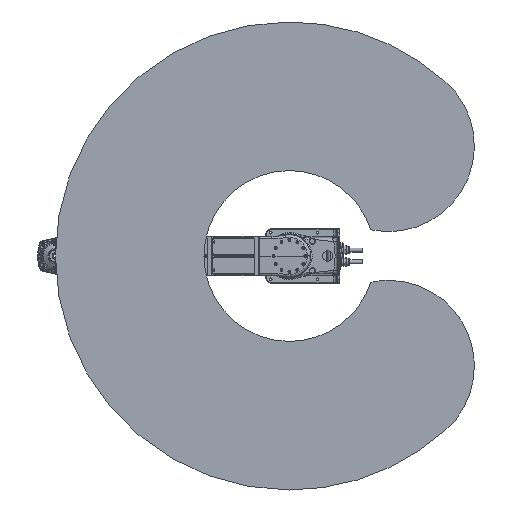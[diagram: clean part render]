
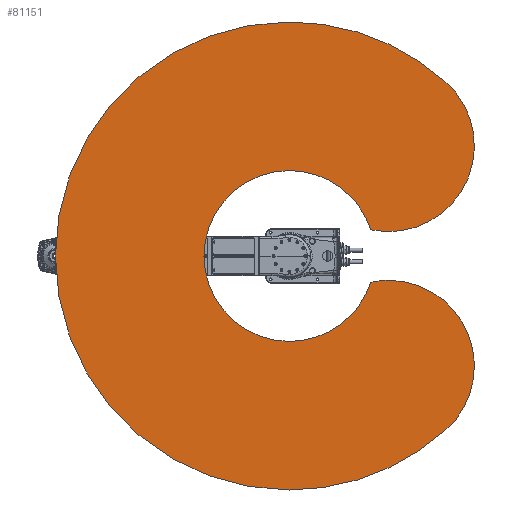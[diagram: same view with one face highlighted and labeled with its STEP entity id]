
A CAD part, front view. The second image highlights one B-rep face of the part: STEP entity #81151.
In plain terms, the highlighted planar face has unit normal (0, -1, 0).
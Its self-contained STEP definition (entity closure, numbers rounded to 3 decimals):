
#6951 = DIRECTION ( 'NONE',  ( 0., 0., 1. ) ) ;
#18715 = CARTESIAN_POINT ( 'NONE',  ( 0., -465., 0. ) ) ;
#19353 = CIRCLE ( 'NONE', #34128, 273.863 ) ;
#24739 = AXIS2_PLACEMENT_3D ( 'NONE', #201879, #52452, #227000 ) ;
#34128 = AXIS2_PLACEMENT_3D ( 'NONE', #18715, #193162, #43775 ) ;
#43677 = CARTESIAN_POINT ( 'NONE',  ( 501.848, -465., -557.359 ) ) ;
#43775 = DIRECTION ( 'NONE',  ( 0., 0., 1. ) ) ;
#46896 = CARTESIAN_POINT ( 'NONE',  ( 0., -465., 0. ) ) ;
#50327 = ORIENTED_EDGE ( 'NONE', *, *, #277407, .F. ) ;
#52452 = DIRECTION ( 'NONE',  ( 0., 1., 0. ) ) ;
#56855 = ORIENTED_EDGE ( 'NONE', *, *, #284107, .F. ) ;
#61598 = ORIENTED_EDGE ( 'NONE', *, *, #112630, .F. ) ;
#64064 = VERTEX_POINT ( 'NONE', #43677 ) ;
#65788 = VERTEX_POINT ( 'NONE', #197816 ) ;
#66924 = CIRCLE ( 'NONE', #125894, 273.863 ) ;
#72027 = DIRECTION ( 'NONE',  ( 0., 0., 1. ) ) ;
#74736 = CARTESIAN_POINT ( 'NONE',  ( 260.661, -465., -84.003 ) ) ;
#81151 = ADVANCED_FACE ( 'NONE', ( #220640 ), #254322, .F. ) ;
#86694 = ORIENTED_EDGE ( 'NONE', *, *, #217320, .F. ) ;
#86759 = DIRECTION ( 'NONE',  ( 0., 1., 0. ) ) ;
#94085 = DIRECTION ( 'NONE',  ( 0., 1., 0. ) ) ;
#96143 = EDGE_CURVE ( 'NONE', #259836, #65788, #285037, .T. ) ;
#96354 = CIRCLE ( 'NONE', #192690, 275. ) ;
#97075 = ORIENTED_EDGE ( 'NONE', *, *, #216048, .F. ) ;
#105936 = DIRECTION ( 'NONE',  ( 0., 1., 0. ) ) ;
#106945 = AXIS2_PLACEMENT_3D ( 'NONE', #293359, #143820, #318426 ) ;
#112630 = EDGE_CURVE ( 'NONE', #234233, #64064, #96354, .T. ) ;
#115871 = CIRCLE ( 'NONE', #128052, 750. ) ;
#117332 = DIRECTION ( 'NONE',  ( 0., 1., 0. ) ) ;
#125894 = AXIS2_PLACEMENT_3D ( 'NONE', #138061, #312688, #163145 ) ;
#128052 = AXIS2_PLACEMENT_3D ( 'NONE', #46896, #221401, #72027 ) ;
#138061 = CARTESIAN_POINT ( 'NONE',  ( 0., -465., 0. ) ) ;
#143820 = DIRECTION ( 'NONE',  ( 0., -1., 0. ) ) ;
#146591 = VERTEX_POINT ( 'NONE', #244848 ) ;
#149564 = CIRCLE ( 'NONE', #264738, 750. ) ;
#155330 = VERTEX_POINT ( 'NONE', #159514 ) ;
#156288 = DIRECTION ( 'NONE',  ( 0., 1., 0. ) ) ;
#159514 = CARTESIAN_POINT ( 'NONE',  ( 0., -465., 750. ) ) ;
#159648 = ORIENTED_EDGE ( 'NONE', *, *, #262420, .F. ) ;
#163145 = DIRECTION ( 'NONE',  ( 0., 0., 1. ) ) ;
#178936 = CIRCLE ( 'NONE', #24739, 275. ) ;
#192690 = AXIS2_PLACEMENT_3D ( 'NONE', #305857, #156288, #6951 ) ;
#193162 = DIRECTION ( 'NONE',  ( 0., -1., 0. ) ) ;
#197228 = EDGE_LOOP ( 'NONE', ( #296633, #86694, #97075, #56855, #251125, #159648, #50327, #277940, #61598 ) ) ;
#197816 = CARTESIAN_POINT ( 'NONE',  ( 260.661, -465., 84.003 ) ) ;
#201879 = CARTESIAN_POINT ( 'NONE',  ( 317.837, -465., -352.994 ) ) ;
#215018 = CARTESIAN_POINT ( 'NONE',  ( 0., -465., 273.863 ) ) ;
#216048 = EDGE_CURVE ( 'NONE', #270569, #270668, #66924, .T. ) ;
#216221 = CIRCLE ( 'NONE', #276715, 750. ) ;
#217320 = EDGE_CURVE ( 'NONE', #270668, #306340, #19353, .T. ) ;
#220640 = FACE_OUTER_BOUND ( 'NONE', #197228, .T. ) ;
#221401 = DIRECTION ( 'NONE',  ( 0., 1., 0. ) ) ;
#227000 = DIRECTION ( 'NONE',  ( 0., 0., 1. ) ) ;
#230329 = CARTESIAN_POINT ( 'NONE',  ( 158.919, -465., -176.497 ) ) ;
#231012 = AXIS2_PLACEMENT_3D ( 'NONE', #230329, #105936, #280549 ) ;
#234233 = VERTEX_POINT ( 'NONE', #260845 ) ;
#236265 = CARTESIAN_POINT ( 'NONE',  ( 0., -465., 0. ) ) ;
#243561 = CARTESIAN_POINT ( 'NONE',  ( 0., -465., 0. ) ) ;
#244848 = CARTESIAN_POINT ( 'NONE',  ( 0., -465., -750. ) ) ;
#251125 = ORIENTED_EDGE ( 'NONE', *, *, #96143, .F. ) ;
#252546 = AXIS2_PLACEMENT_3D ( 'NONE', #266851, #117332, #291964 ) ;
#254322 = PLANE ( 'NONE',  #231012 ) ;
#259836 = VERTEX_POINT ( 'NONE', #298796 ) ;
#260845 = CARTESIAN_POINT ( 'NONE',  ( 317.837, -465., -77.994 ) ) ;
#261364 = DIRECTION ( 'NONE',  ( 0., 0., 1. ) ) ;
#262420 = EDGE_CURVE ( 'NONE', #155330, #259836, #216221, .T. ) ;
#264738 = AXIS2_PLACEMENT_3D ( 'NONE', #236265, #86759, #261364 ) ;
#266851 = CARTESIAN_POINT ( 'NONE',  ( 317.837, -465., 352.994 ) ) ;
#268717 = DIRECTION ( 'NONE',  ( 0., 0., 1. ) ) ;
#269137 = EDGE_CURVE ( 'NONE', #306340, #234233, #178936, .T. ) ;
#270569 = VERTEX_POINT ( 'NONE', #215018 ) ;
#270668 = VERTEX_POINT ( 'NONE', #317586 ) ;
#276715 = AXIS2_PLACEMENT_3D ( 'NONE', #243561, #94085, #268717 ) ;
#277407 = EDGE_CURVE ( 'NONE', #146591, #155330, #149564, .T. ) ;
#277940 = ORIENTED_EDGE ( 'NONE', *, *, #312147, .F. ) ;
#280549 = DIRECTION ( 'NONE',  ( 0., 0., 1. ) ) ;
#284107 = EDGE_CURVE ( 'NONE', #65788, #270569, #304934, .T. ) ;
#285037 = CIRCLE ( 'NONE', #252546, 275. ) ;
#291964 = DIRECTION ( 'NONE',  ( 0., 0., 1. ) ) ;
#293359 = CARTESIAN_POINT ( 'NONE',  ( 0., -465., 0. ) ) ;
#296633 = ORIENTED_EDGE ( 'NONE', *, *, #269137, .F. ) ;
#298796 = CARTESIAN_POINT ( 'NONE',  ( 501.848, -465., 557.359 ) ) ;
#304934 = CIRCLE ( 'NONE', #106945, 273.863 ) ;
#305857 = CARTESIAN_POINT ( 'NONE',  ( 317.837, -465., -352.994 ) ) ;
#306340 = VERTEX_POINT ( 'NONE', #74736 ) ;
#312147 = EDGE_CURVE ( 'NONE', #64064, #146591, #115871, .T. ) ;
#312688 = DIRECTION ( 'NONE',  ( 0., -1., 0. ) ) ;
#317586 = CARTESIAN_POINT ( 'NONE',  ( 0., -465., -273.863 ) ) ;
#318426 = DIRECTION ( 'NONE',  ( 0., 0., 1. ) ) ;
